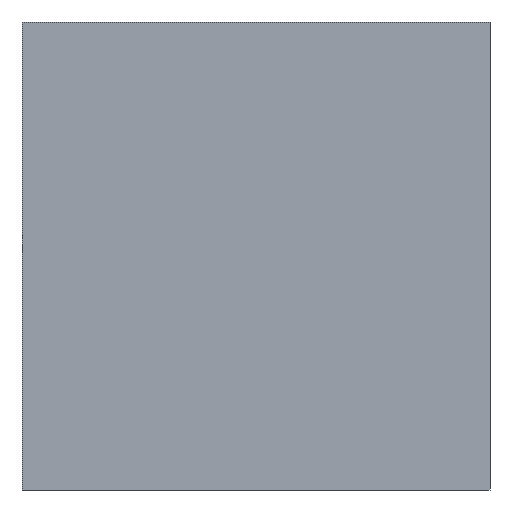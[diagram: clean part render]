
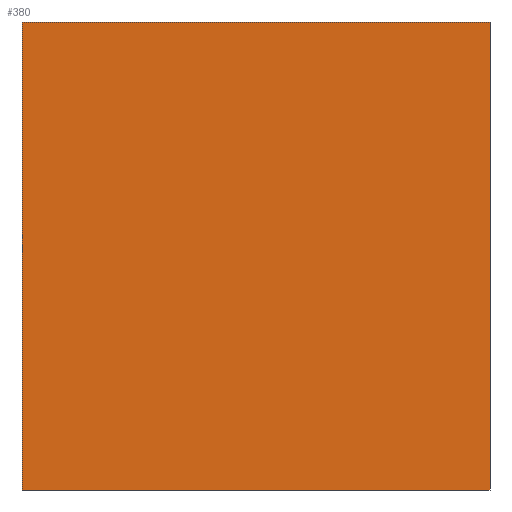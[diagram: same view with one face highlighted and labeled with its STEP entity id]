
A CAD part, left-side view. The second image highlights one B-rep face of the part: STEP entity #380.
In plain terms, the highlighted planar face has unit normal (-1, 0, 0).
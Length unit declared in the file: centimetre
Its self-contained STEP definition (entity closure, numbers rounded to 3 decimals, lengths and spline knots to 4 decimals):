
#52 = CARTESIAN_POINT ( 'NONE',  ( 0., 1000., 1000. ) ) ;
#60 = CARTESIAN_POINT ( 'NONE',  ( 0., 1000., 1000. ) ) ;
#73 = VECTOR ( 'NONE', #398, 100. ) ;
#76 = CARTESIAN_POINT ( 'NONE',  ( 0., 1000., 1000. ) ) ;
#117 = VERTEX_POINT ( 'NONE', #453 ) ;
#119 = LINE ( 'NONE', #314, #73 ) ;
#129 = CARTESIAN_POINT ( 'NONE',  ( 0., 1000., 0. ) ) ;
#132 = VECTOR ( 'NONE', #488, 100. ) ;
#146 = EDGE_CURVE ( 'NONE', #441, #155, #329, .T. ) ;
#152 = CARTESIAN_POINT ( 'NONE',  ( 0., 1000., 1000. ) ) ;
#155 = VERTEX_POINT ( 'NONE', #403 ) ;
#157 = LINE ( 'NONE', #60, #242 ) ;
#167 = EDGE_CURVE ( 'NONE', #304, #441, #157, .T. ) ;
#196 = LINE ( 'NONE', #52, #132 ) ;
#242 = VECTOR ( 'NONE', #379, 100. ) ;
#252 = ORIENTED_EDGE ( 'NONE', *, *, #468, .F. ) ;
#288 = DIRECTION ( 'NONE',  ( 0., -1., 0. ) ) ;
#304 = VERTEX_POINT ( 'NONE', #76 ) ;
#314 = CARTESIAN_POINT ( 'NONE',  ( 0., 0., 1000. ) ) ;
#315 = DIRECTION ( 'NONE',  ( 1., 0., 0. ) ) ;
#319 = FACE_OUTER_BOUND ( 'NONE', #503, .T. ) ;
#329 = LINE ( 'NONE', #129, #340 ) ;
#340 = VECTOR ( 'NONE', #288, 100. ) ;
#348 = ORIENTED_EDGE ( 'NONE', *, *, #475, .F. ) ;
#379 = DIRECTION ( 'NONE',  ( 0., 0., -1. ) ) ;
#380 = ADVANCED_FACE ( 'NONE', ( #319 ), #520, .F. ) ;
#392 = ORIENTED_EDGE ( 'NONE', *, *, #146, .T. ) ;
#398 = DIRECTION ( 'NONE',  ( 0., 0., -1. ) ) ;
#403 = CARTESIAN_POINT ( 'NONE',  ( 0., 0., 0. ) ) ;
#408 = DIRECTION ( 'NONE',  ( 0., 0., -1. ) ) ;
#428 = ORIENTED_EDGE ( 'NONE', *, *, #167, .T. ) ;
#441 = VERTEX_POINT ( 'NONE', #447 ) ;
#447 = CARTESIAN_POINT ( 'NONE',  ( 0., 1000., 0. ) ) ;
#453 = CARTESIAN_POINT ( 'NONE',  ( 0., 0., 1000. ) ) ;
#468 = EDGE_CURVE ( 'NONE', #117, #155, #119, .T. ) ;
#475 = EDGE_CURVE ( 'NONE', #304, #117, #196, .T. ) ;
#488 = DIRECTION ( 'NONE',  ( 0., -1., 0. ) ) ;
#497 = AXIS2_PLACEMENT_3D ( 'NONE', #152, #315, #408 ) ;
#503 = EDGE_LOOP ( 'NONE', ( #392, #252, #348, #428 ) ) ;
#520 = PLANE ( 'NONE',  #497 ) ;
